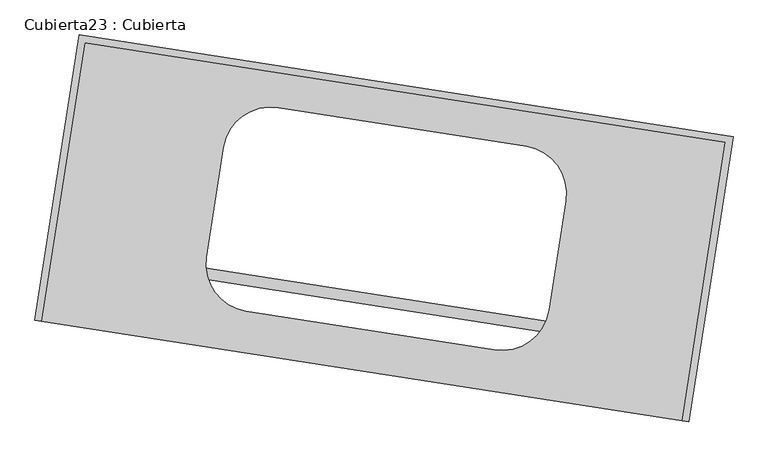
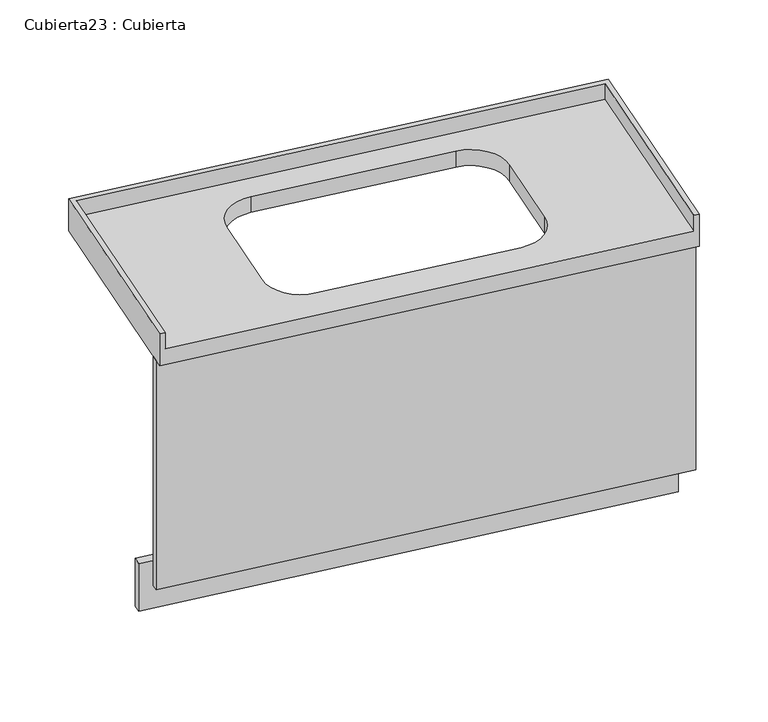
"""IFC4 building model written with IfcOpenShell, lengths in millimetres: furniture geometry, Cubierta23 : Cubierta."""

from ifc_helpers import new_model, si_unit, frame, origin, place, context, project, spatial, polyline, circle_curve, outline, extrude, source, transform, mapped, element, save
from ifc_brep_helpers import plane_surface, revolved_surface, advanced_brep


def cubierta23_cubierta_d36741bc(model_context):
    return source(origin(), model_context, "Body", "SolidModel", [
        extrude(outline(polyline([(-44296.2782533, -71757.6545898), (-45768.5015172, -71528.1798789), (-45764.6512704, -71503.4781462), (-44292.4280064, -71732.9528571), (-44296.2782533, -71757.6545898)])), frame((0.0, 0.0, 9600.0), z_axis=(0.0, 0.0, 1.0), x_axis=(1.0, 0.0, 0.0)), (0.0, 0.0, 1.0), 150.0),
        extrude(outline(polyline([(-44315.5294875, -71881.1632534), (-45787.7527514, -71651.6885425), (-45784.6725539, -71631.9271563), (-44312.44929, -71861.4018672), (-44315.5294875, -71881.1632534)])), frame((0.0, 0.0, 9750.0), z_axis=(0.0, 0.0, 1.0), x_axis=(1.0, 0.0, 0.0)), (0.0, 0.0, 1.0), 720.0),
        advanced_brep(
        [(-45776.7819586, -71678.7004233, 10520.0), (-44334.2007739, -71903.554838, 10520.0), (-44236.404504, -71276.130827, 10520.0), (-45678.9856888, -71051.2764123, 10520.0), (-45404.6020427, -71534.2969722, 10520.0), (-45366.0995742, -71287.279645, 10520.0), (-45243.8971017, -71198.0352854, 10520.0), (-44685.6379423, -71285.0508641, 10520.0), (-44596.3935828, -71407.2533366, 10520.0), (-44634.8960512, -71654.2706638, 10520.0), (-44757.0985237, -71743.5150234, 10520.0), (-45315.3576831, -71656.4994447, 10520.0), (-44219.2733163, -71263.6199354, 10470.0), (-44319.3797344, -71905.8649861, 10470.0), (-45791.6029983, -71676.3902752, 10470.0), (-45691.4965803, -71034.1452245, 10470.0), (-45404.6020427, -71534.2969722, 10470.0), (-45315.3576831, -71656.4994447, 10470.0), (-44757.0985237, -71743.5150234, 10470.0), (-44634.8960512, -71654.2706638, 10470.0), (-44596.3935828, -71407.2533366, 10470.0), (-44685.6379423, -71285.0508641, 10470.0), (-45243.8971017, -71198.0352854, 10470.0), (-45366.0995742, -71287.279645, 10470.0), (-44319.3797342, -71905.8649861, 10570.0), (-44334.2007739, -71903.554838, 10570.0), (-45776.7819586, -71678.7004233, 10570.0), (-45791.6029983, -71676.3902752, 10570.0), (-44236.404504, -71276.130827, 10570.0), (-45678.9856888, -71051.2764123, 10570.0), (-45691.4965803, -71034.1452245, 10570.0), (-44219.2733163, -71263.6199355, 10570.0)],
        [
            (0, 1),
            (1, 2),
            (2, 3),
            (3, 0),
            (4, 5),
            (5, 6, circle_curve(frame((-45260.3761582, -71303.7587015, 10520.0), z_axis=(0.0, 0.0, -1.0), x_axis=(0.9880693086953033, -0.1540098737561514, 0.0)), 107.0)),
            (6, 7),
            (7, 8, circle_curve(frame((-44702.1169988, -71390.7742801, 10520.0), z_axis=(0.0, 0.0, -1.0), x_axis=(0.9880693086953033, -0.1540098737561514, 0.0)), 107.0)),
            (8, 9),
            (9, 10, circle_curve(frame((-44740.6194672, -71637.7916073, 10520.0), z_axis=(0.0, 0.0, -1.0), x_axis=(0.9880693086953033, -0.1540098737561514, 0.0)), 107.0)),
            (10, 11),
            (11, 4, circle_curve(frame((-45298.8786266, -71550.7760286, 10520.0), z_axis=(0.0, 0.0, -1.0), x_axis=(0.9880693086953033, -0.1540098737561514, 0.0)), 107.0)),
            (12, 13),
            (13, 14),
            (14, 15),
            (15, 12),
            (16, 17, circle_curve(frame((-45298.8786266, -71550.7760286, 10470.0), z_axis=(0.0, 0.0, 1.0), x_axis=(0.9880693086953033, -0.1540098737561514, 0.0)), 107.0)),
            (17, 18),
            (18, 19, circle_curve(frame((-44740.6194672, -71637.7916073, 10470.0), z_axis=(0.0, 0.0, 1.0), x_axis=(0.9880693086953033, -0.1540098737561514, 0.0)), 107.0)),
            (19, 20),
            (20, 21, circle_curve(frame((-44702.1169988, -71390.7742801, 10470.0), z_axis=(0.0, 0.0, 1.0), x_axis=(0.9880693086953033, -0.1540098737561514, 0.0)), 107.0)),
            (21, 22),
            (22, 23, circle_curve(frame((-45260.3761582, -71303.7587015, 10470.0), z_axis=(0.0, 0.0, 1.0), x_axis=(0.9880693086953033, -0.1540098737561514, 0.0)), 107.0)),
            (23, 16),
            (24, 25),
            (25, 1),
            (0, 26),
            (26, 27),
            (27, 14),
            (13, 24),
            (2, 28),
            (28, 29),
            (29, 3),
            (15, 30),
            (30, 31),
            (31, 12),
            (4, 16),
            (23, 5),
            (22, 6),
            (21, 7),
            (20, 8),
            (19, 9),
            (18, 10),
            (17, 11),
            (31, 24),
            (25, 28),
            (30, 27),
            (26, 29),
        ],
        [
            plane_surface(frame((-45212.4380491, -71108.8158404, 10520.0), z_axis=(0.0, 0.0, 1.0000000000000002), x_axis=(-0.9880693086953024, 0.15400987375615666, 0.0))),
            plane_surface(frame((-45212.4380491, -71108.8158404, 10470.0), z_axis=(0.0, 0.0, -1.0000000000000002), x_axis=(0.9880693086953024, -0.15400987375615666, 0.0))),
            plane_surface(frame((-44319.3797342, -71905.8649861, 9620.0), z_axis=(-0.15400987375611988, -0.9880693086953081, 0.0), x_axis=(0.0, 0.0, 1.0))),
            plane_surface(frame((-44236.404504, -71276.130827, 10570.0), z_axis=(-0.15400987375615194, -0.9880693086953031, 0.0), x_axis=(-0.9880693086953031, 0.15400987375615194, 0.0))),
            plane_surface(frame((-44219.2733163, -71263.6199355, 10520.0), z_axis=(0.15400987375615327, 0.988069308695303, 0.0), x_axis=(-0.988069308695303, 0.15400987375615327, 0.0))),
            plane_surface(frame((-45404.6020427, -71534.2969722, 10520.0), z_axis=(0.9880693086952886, -0.1540098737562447, 0.0), x_axis=(0.0, 0.0, -1.0))),
            revolved_surface(polyline([(-45154.6527421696, -71320.23775799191, 10470.0), (-45154.6527421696, -71320.23775799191, 10520.0)]), (-45260.3761582, -71303.7587015, 9620.0), (0.0, 0.0, -1.0000000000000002)),
            plane_surface(frame((-45243.8971017, -71198.0352854, 10520.0), z_axis=(-0.15400987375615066, -0.9880693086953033, 0.0), x_axis=(0.0, 0.0, -1.0))),
            revolved_surface(polyline([(-44596.3935827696, -71407.25333659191, 10470.0), (-44596.3935827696, -71407.25333659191, 10520.0)]), (-44702.1169988, -71390.7742801, 9620.0), (0.0, 0.0, -1.0000000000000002)),
            plane_surface(frame((-44596.3935828, -71407.2533366, 10520.0), z_axis=(-0.9880693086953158, 0.15400987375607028, 0.0), x_axis=(0.0, 0.0, -1.0))),
            revolved_surface(polyline([(-44634.8960511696, -71654.2706637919, 10470.0), (-44634.8960511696, -71654.2706637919, 10520.0)]), (-44740.6194672, -71637.7916073, 9620.0), (0.0, 0.0, -1.0000000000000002)),
            plane_surface(frame((-44757.0985237, -71743.5150234, 10520.0), z_axis=(0.1540098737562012, 0.9880693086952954, 0.0), x_axis=(0.0, 0.0, -1.0))),
            revolved_surface(polyline([(-45193.1552105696, -71567.2550850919, 10470.0), (-45193.1552105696, -71567.2550850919, 10520.0)]), (-45298.8786266, -71550.7760286, 9620.0), (0.0, 0.0, -1.0000000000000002)),
            plane_surface(frame((-44319.3797342, -71905.8649861, 10520.0), z_axis=(0.9880693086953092, -0.1540098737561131, 0.0), x_axis=(0.1540098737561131, 0.9880693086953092, 0.0))),
            plane_surface(frame((-44334.2007739, -71903.554838, 10570.0), z_axis=(-0.9880693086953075, 0.15400987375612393, 0.0), x_axis=(0.15400987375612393, 0.9880693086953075, 0.0))),
            plane_surface(frame((-44319.3797342, -71905.8649861, 10570.0), z_axis=(0.0, 0.0, 1.0), x_axis=(0.1540098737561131, 0.9880693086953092, 0.0))),
            plane_surface(frame((-45691.4965803, -71034.1452245, 10520.0), z_axis=(-0.9880693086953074, 0.15400987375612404, 0.0), x_axis=(-0.15400987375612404, -0.9880693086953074, 0.0))),
            plane_surface(frame((-45678.9856888, -71051.2764123, 10570.0), z_axis=(0.9880693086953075, -0.15400987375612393, 0.0), x_axis=(-0.15400987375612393, -0.9880693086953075, 0.0))),
        ],
        [
            (0, [[1, 2, 3, 4], [5, 6, 7, 8, 9, 10, 11, 12]]),
            (1, [[13, 14, 15, 16], [17, 18, 19, 20, 21, 22, 23, 24]]),
            (2, [[25, 26, -1, 27, 28, 29, -14, 30]]),
            (3, [[31, 32, 33, -3]]),
            (4, [[-16, 34, 35, 36]]),
            (5, [[-5, 37, -24, 38]]),
            (6, [[-6, -38, -23, 39]]),
            (7, [[-7, -39, -22, 40]]),
            (8, [[-8, -40, -21, 41]]),
            (9, [[-9, -41, -20, 42]]),
            (10, [[-10, -42, -19, 43]]),
            (11, [[-11, -43, -18, 44]]),
            (12, [[-12, -44, -17, -37]]),
            (13, [[-30, -13, -36, 45]]),
            (14, [[-26, 46, -31, -2]]),
            (15, [[-25, -45, -35, 47, -28, 48, -32, -46]]),
            (16, [[-34, -15, -29, -47]]),
            (17, [[-33, -48, -27, -4]]),
        ],
    ),
    ])


if __name__ == "__main__":
    model = new_model("IFC4")
    model_context = context("Model", 3, world=origin())
    ifc_project = project(units=[si_unit("LENGTHUNIT", "METRE", prefix="MILLI")], contexts=[model_context])
    site = spatial("IfcSite", under=ifc_project)
    building = spatial("IfcBuilding", under=site)
    placement = place(None, origin())
    cubierta23_cubierta_shape = cubierta23_cubierta_d36741bc(model_context)
    element("IfcFurniture", 1, ObjectType="Cubierta23 : Cubierta", at=placement, inside=building, context=model_context, shape_type="MappedRepresentation", body=[
        mapped(cubierta23_cubierta_shape, transform((0.0, 0.0, 0.0), x_axis=(1.0, 0.0, 0.0), y_axis=(0.0, 1.0, 0.0), z_axis=(0.0, 0.0, 1.0))),
    ])
    save(model, "model.ifc")
